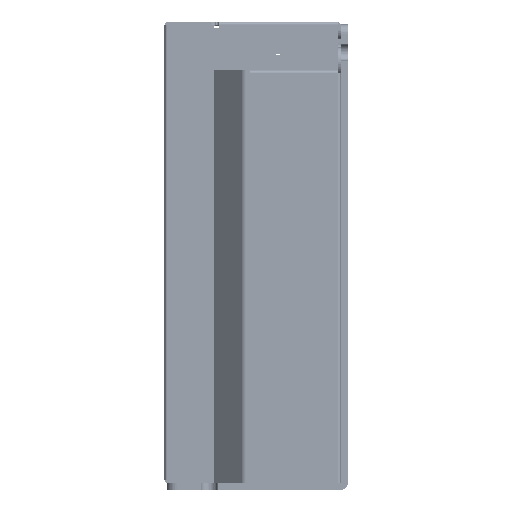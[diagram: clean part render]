
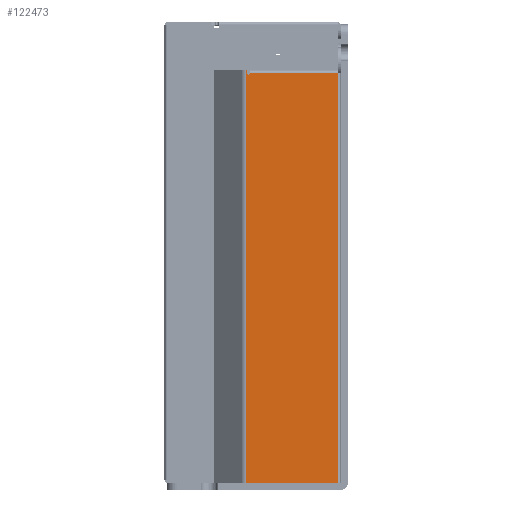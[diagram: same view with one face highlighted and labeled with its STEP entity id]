
A CAD part, left-side view. The second image highlights one B-rep face of the part: STEP entity #122473.
In plain terms, the highlighted planar face has unit normal (-1, 0, 0).
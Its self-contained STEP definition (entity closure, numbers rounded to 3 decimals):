
#80465=DIRECTION('',(0.,0.,1.));
#80466=VECTOR('',#80465,0.3);
#80467=CARTESIAN_POINT('',(-67.45,-37.85,-17.149));
#80468=LINE('',#80467,#80466);
#80529=DIRECTION('',(0.,1.,0.));
#80530=VECTOR('',#80529,85.5);
#80531=CARTESIAN_POINT('',(-67.45,-37.85,-16.849));
#80532=LINE('',#80531,#80530);
#80537=CARTESIAN_POINT('',(-67.45,-37.25,-17.449));
#80538=DIRECTION('',(-1.,0.,0.));
#80539=DIRECTION('',(0.,0.,1.));
#80540=AXIS2_PLACEMENT_3D('',#80537,#80538,#80539);
#80546=DIRECTION('',(0.,0.,1.));
#80547=VECTOR('',#80546,18.151);
#80548=CARTESIAN_POINT('',(-67.45,-37.25,-35.9));
#80549=LINE('',#80548,#80547);
#80684=DIRECTION('',(0.,-1.,0.));
#80685=VECTOR('',#80684,0.6);
#80686=CARTESIAN_POINT('',(-67.45,-37.25,-17.149));
#80687=LINE('',#80686,#80685);
#80709=DIRECTION('',(0.,0.,-1.));
#80710=VECTOR('',#80709,19.051);
#80711=CARTESIAN_POINT('',(-67.45,47.65,-16.849));
#80712=LINE('',#80711,#80710);
#80726=DIRECTION('',(0.,-1.,0.));
#80727=VECTOR('',#80726,84.9);
#80728=CARTESIAN_POINT('',(-67.45,47.65,-35.9));
#80729=LINE('',#80728,#80727);
#112021=CARTESIAN_POINT('',(-67.45,-37.85,-17.149));
#112022=VERTEX_POINT('',#112021);
#112023=CARTESIAN_POINT('',(-67.45,-37.85,-16.849));
#112024=VERTEX_POINT('',#112023);
#112031=CARTESIAN_POINT('',(-67.45,47.65,-16.849));
#112032=VERTEX_POINT('',#112031);
#112033=CARTESIAN_POINT('',(-67.45,-37.25,-35.9));
#112034=CARTESIAN_POINT('',(-67.45,-37.25,-17.749));
#112035=VERTEX_POINT('',#112033);
#112036=VERTEX_POINT('',#112034);
#112037=CARTESIAN_POINT('',(-67.45,47.65,-35.9));
#112038=VERTEX_POINT('',#112037);
#112039=CARTESIAN_POINT('',(-67.45,-37.25,-17.149));
#112040=VERTEX_POINT('',#112039);
#122454=CARTESIAN_POINT('',(-67.45,25.102,-16.6));
#122455=DIRECTION('',(1.,0.,0.));
#122456=DIRECTION('',(0.,-1.,0.));
#122457=AXIS2_PLACEMENT_3D('',#122454,#122455,#122456);
#122458=PLANE('',#122457);
#122460=ORIENTED_EDGE('',*,*,#122459,.F.);
#122462=ORIENTED_EDGE('',*,*,#122461,.F.);
#122464=ORIENTED_EDGE('',*,*,#122463,.F.);
#122465=ORIENTED_EDGE('',*,*,#122447,.F.);
#122466=ORIENTED_EDGE('',*,*,#122351,.F.);
#122468=ORIENTED_EDGE('',*,*,#122467,.F.);
#122470=ORIENTED_EDGE('',*,*,#122469,.T.);
#122471=EDGE_LOOP('',(#122460,#122462,#122464,#122465,#122466,#122468,#122470));
#122472=FACE_OUTER_BOUND('',#122471,.F.);
#80541=CIRCLE('',#80540,0.3);
#122351=EDGE_CURVE('',#112022,#112024,#80468,.T.);
#122447=EDGE_CURVE('',#112024,#112032,#80532,.T.);
#122459=EDGE_CURVE('',#112035,#112036,#80549,.T.);
#122461=EDGE_CURVE('',#112038,#112035,#80729,.T.);
#122463=EDGE_CURVE('',#112032,#112038,#80712,.T.);
#122467=EDGE_CURVE('',#112040,#112022,#80687,.T.);
#122469=EDGE_CURVE('',#112040,#112036,#80541,.T.);
#122473=ADVANCED_FACE('',(#122472),#122458,.F.);
